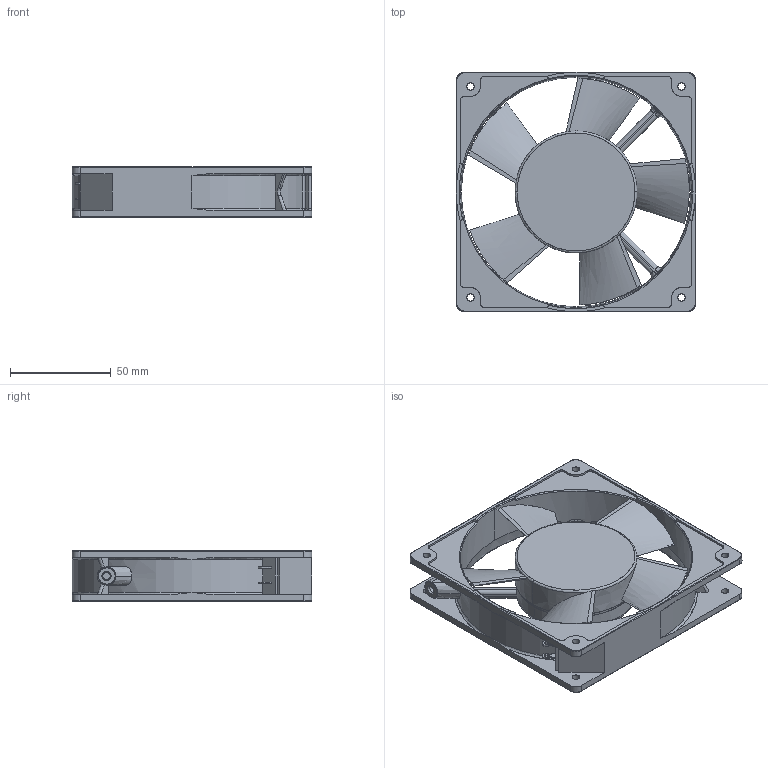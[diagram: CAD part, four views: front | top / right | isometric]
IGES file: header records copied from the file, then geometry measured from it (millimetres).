
Start section: SolidWorks IGES file using analytic representation for surfaces
Bounding box: 119 x 119 x 25.3 mm (x, y, z)
Surface area: 53489 mm2 (no closed solid volume)
Topology: 0 solids, 0 shells, 424 faces, 6162 edges, 6157 vertices
Faces by surface type: bspline 262, revolution 162
